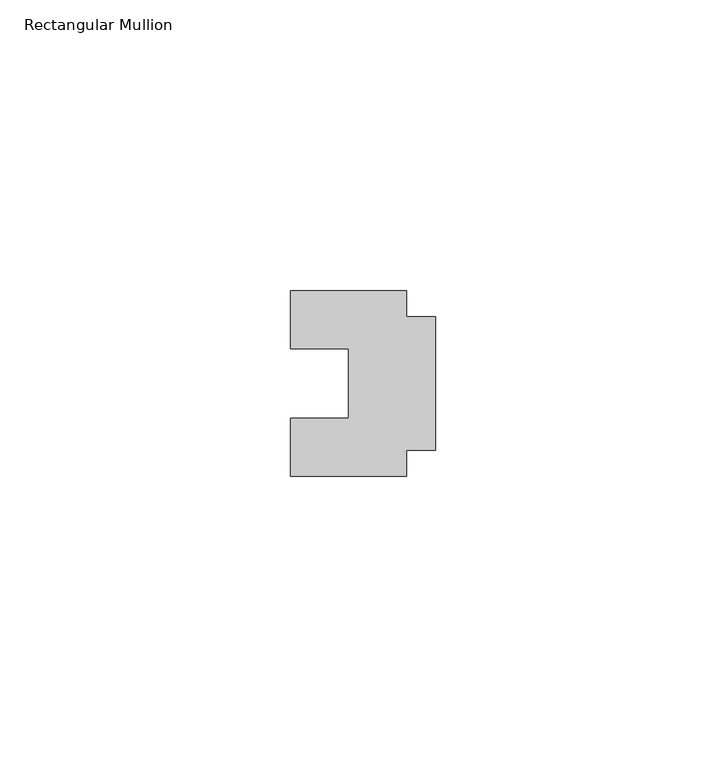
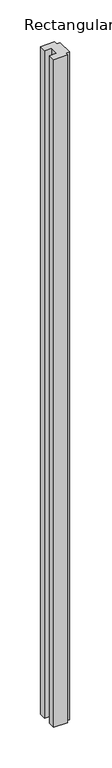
"""IFC4 building model written with IfcOpenShell, lengths in millimetres: member geometry, Rectangular Mullion : Klein_Nature_Profile-Bottom-Panel."""

from ifc_helpers import new_model, si_unit, frame, origin, place, context, project, spatial, polyline, outline, extrude, source, transform, mapped, element, save


def rectangular_mullion_22cbb824(model_context):
    return source(origin(), model_context, "Body", "SweptSolid", [
        extrude(outline(polyline([(-25.0, 4.3), (-25.0, 14.3), (-15.0, 14.3), (-15.0, 26.3), (-25.0, 26.3), (-25.0, 36.3), (-5.0, 36.3), (-5.0, 31.8), (0.0, 31.8), (0.0, 8.8), (-5.0, 8.8), (-5.0, 4.3), (-25.0, 4.3)])), frame((0.0, 0.0, -999.9999998), z_axis=(0.0, 0.0, 1.0), x_axis=(1.0, 0.0, 0.0)), (0.0, 0.0, 1.0), 999.9999998),
    ])


if __name__ == "__main__":
    model = new_model("IFC4")
    model_context = context("Model", 3, world=origin())
    ifc_project = project(units=[si_unit("LENGTHUNIT", "METRE", prefix="MILLI")], contexts=[model_context])
    site = spatial("IfcSite", under=ifc_project)
    building = spatial("IfcBuilding", under=site)
    placement = place(None, origin())
    rectangular_mullion_shape = rectangular_mullion_22cbb824(model_context)
    element("IfcMember", 1, ObjectType="Rectangular Mullion : Klein_Nature_Profile-Bottom-Panel", at=placement, inside=building, context=model_context, shape_type="MappedRepresentation", body=[
        mapped(rectangular_mullion_shape, transform((0.0, 0.0, 0.0), x_axis=(1.0, 0.0, 0.0), y_axis=(0.0, 1.0, 0.0), z_axis=(0.0, 0.0, 1.0))),
    ])
    save(model, "model.ifc")
